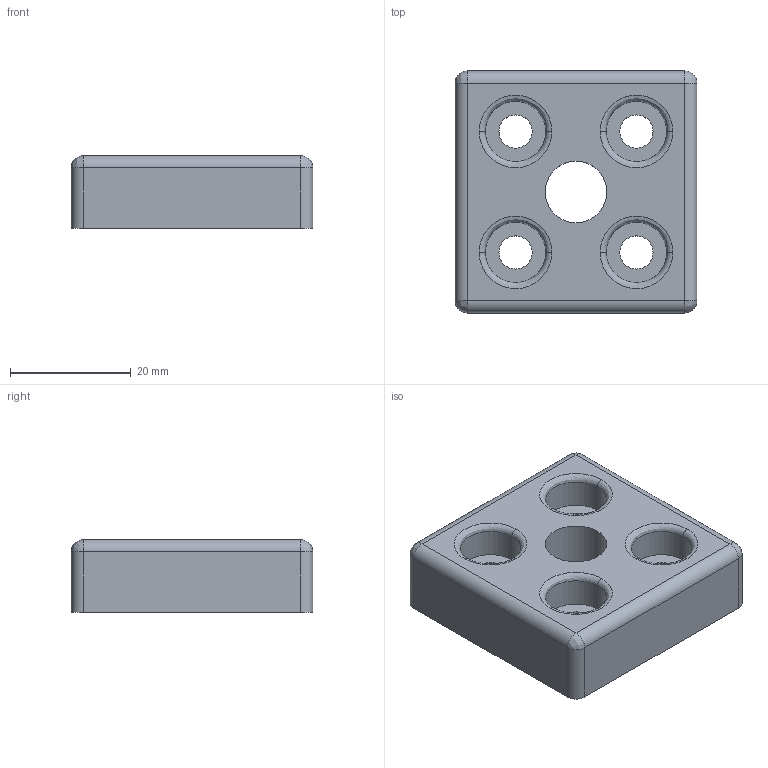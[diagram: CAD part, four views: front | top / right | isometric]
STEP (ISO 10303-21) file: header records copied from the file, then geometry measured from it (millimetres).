
FILE_DESCRIPTION (( 'STEP AP203' ), '1' );
FILE_NAME ('0108FP4040M12.STEP', '2024-03-15T12:14:44', ( 'Windows-Benutzer' ), ( '' ), 'SwSTEP 2.0', 'SolidWorks 2023', '' );
FILE_SCHEMA (( 'CONFIG_CONTROL_DESIGN' ));
Length unit declared in the file: millimetre
Products named in the file (1): 0108FP4040M12
Bounding box: 40 x 40 x 12 mm (x, y, z)
Volume: 11629.5 mm3; surface area: 8452.6 mm2
Topology: 1 solids, 1 shells, 115 faces, 287 edges, 182 vertices
Faces by surface type: cylinder 81, plane 22, bspline 12
Entity records: 3696 total; most frequent: CARTESIAN_POINT 785, DIRECTION 653, ORIENTED_EDGE 566, EDGE_CURVE 283, AXIS2_PLACEMENT_3D 274, VERTEX_POINT 182, CIRCLE 170, EDGE_LOOP 137
